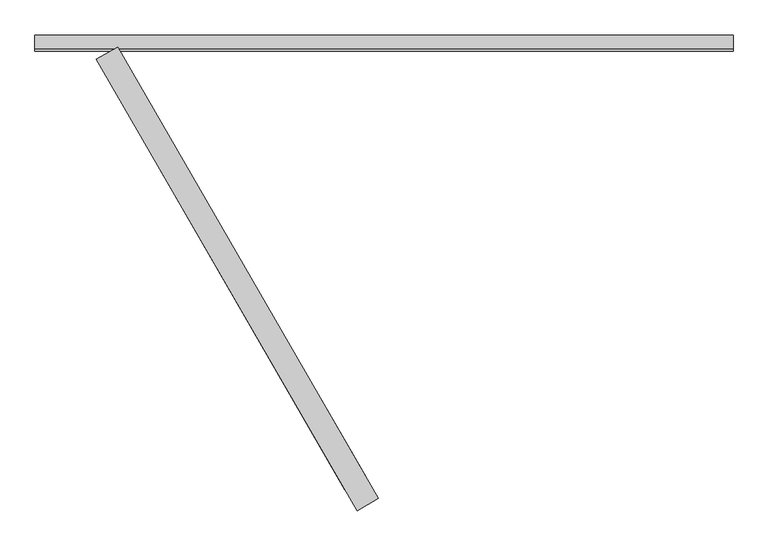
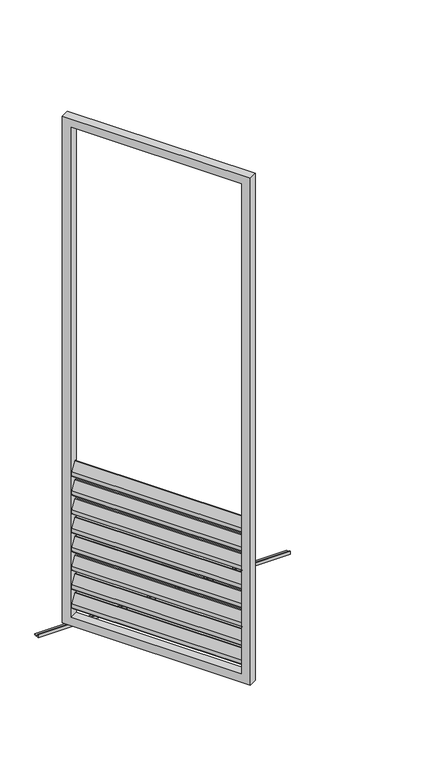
"""IFC4 building model written with IfcOpenShell, lengths in millimetres: proxy geometry, Renson_Amani_Loggia_Paro_Aluminium_Folding : Renson_Amani_Loggia_Paro_Aluminium_Folding."""

import ifcopenshell
import ifcopenshell.guid

model = None  # the IFC model being written
_history = None  # IfcOwnerHistory: only IFC2X3 demands one
_inside = {}  # id of a spatial element -> (the spatial element, [elements in it])
_under = {}  # id of a project, library or spatial element -> (it, [spatial elements below it])
_declared = {}  # id of a project -> (the project, [libraries it declares])
_typed = {}  # id of a type object -> (the type object, [elements of that type])
_made_of = {}  # id of a material, layer set ... -> (it, [elements and type objects made of it])


def new_model(schema):
    """Start an empty IFC model of exactly this schema.

    Asked for "IFC4X3", IfcOpenShell would pick the latest addendum, in which some entities
    have other attributes; the version numbers below select the first issue.
    IFC2X3 requires an IfcOwnerHistory on every rooted entity: one is made here for all.
    """
    global model, _history
    if schema == "IFC4X3":
        model = ifcopenshell.file(schema_version=(4, 3, 0, 0))
    else:
        model = ifcopenshell.file(schema=schema)
    _inside.clear()
    _under.clear()
    _declared.clear()
    _typed.clear()
    _made_of.clear()
    _history = None
    if model.schema == "IFC2X3":
        org = make("IfcOrganization", Name="unknown")
        user = make(
            "IfcPersonAndOrganization",
            ThePerson=make("IfcPerson", FamilyName="unknown"),
            TheOrganization=org,
        )
        app = make(
            "IfcApplication",
            ApplicationDeveloper=org,
            Version="unknown",
            ApplicationFullName="unknown",
            ApplicationIdentifier="unknown",
        )
        _history = make(
            "IfcOwnerHistory",
            OwningUser=user,
            OwningApplication=app,
            ChangeAction="ADDED",
            CreationDate=0,
        )
    return model


def make(cls, **values):
    """One entity of the class cls with the attributes given. An attribute that is None is left unset."""
    return model.create_entity(
        cls, **{name: value for name, value in values.items() if value is not None}
    )


def rooted(cls, **values):
    """An entity with a GlobalId (a new one), such as an element, a storey or a relation."""
    return make(cls, GlobalId=ifcopenshell.guid.new(), OwnerHistory=_history, **values)


def si_unit(unit_type, name, prefix=None):
    """IfcSIUnit, for example si_unit("LENGTHUNIT", "METRE", prefix="MILLI")."""
    return make("IfcSIUnit", UnitType=unit_type, Prefix=prefix, Name=name)


def assignment(units):
    """IfcUnitAssignment: the units of a project."""
    return None if units is None else make("IfcUnitAssignment", Units=units)


def point(xyz):
    """IfcCartesianPoint."""
    return None if xyz is None else make("IfcCartesianPoint", Coordinates=xyz)


def direction(xyz):
    """IfcDirection."""
    return None if xyz is None else make("IfcDirection", DirectionRatios=xyz)


def frame(location, z_axis=None, x_axis=None):
    """IfcAxis2Placement3D, a coordinate frame: its origin and axes. An axis left out is left unset."""
    return make(
        "IfcAxis2Placement3D",
        Location=point(location),
        Axis=direction(z_axis),
        RefDirection=direction(x_axis),
    )


def frame_2d(location, x_axis=None):
    """IfcAxis2Placement2D, a coordinate frame in the plane: its origin and x axis."""
    return make(
        "IfcAxis2Placement2D", Location=point(location), RefDirection=direction(x_axis)
    )


def origin():
    """The frame at (0, 0, 0) with its axes left unset."""
    return frame((0.0, 0.0, 0.0))


def place(relative_to, where):
    """IfcLocalPlacement: puts the frame where relative to a parent placement (None: the world)."""
    return make(
        "IfcLocalPlacement", PlacementRelTo=relative_to, RelativePlacement=where
    )


def context(
    kind, dimensions, precision=None, world=None, true_north=None, identifier=None
):
    """IfcGeometricRepresentationContext, for example the 3D "Model" context."""
    return make(
        "IfcGeometricRepresentationContext",
        ContextIdentifier=identifier,
        ContextType=kind,
        CoordinateSpaceDimension=dimensions,
        Precision=precision,
        WorldCoordinateSystem=world,
        TrueNorth=true_north,
    )


def project(units=None, contexts=None):
    """IfcProject with its units and contexts."""
    return rooted(
        "IfcProject",
        Name="project",
        RepresentationContexts=contexts,
        UnitsInContext=assignment(units),
    )


def spatial(cls, under=None, at=None, **own):
    """A site, building, storey or space (cls), placed at a placement, below another one or the project."""
    s = rooted(cls, ObjectPlacement=at, **own)
    if under is not None:
        _under.setdefault(under.id(), (under, []))[1].append(s)
    return s


def polyline(points):
    """IfcPolyline through the points."""
    return make("IfcPolyline", Points=[point(p) for p in points])


def circle_curve(where, radius):
    """IfcCircle in the frame where."""
    return make("IfcCircle", Position=where, Radius=radius)


def trimmed(basis, trim1, trim2, sense, master):
    """IfcTrimmedCurve: the piece of a basis curve between two trims."""
    return make(
        "IfcTrimmedCurve",
        BasisCurve=basis,
        Trim1=trim1,
        Trim2=trim2,
        SenseAgreement=sense,
        MasterRepresentation=master,
    )


def segment(curve, same_sense, transition):
    """IfcCompositeCurveSegment."""
    return make(
        "IfcCompositeCurveSegment",
        Transition=transition,
        SameSense=same_sense,
        ParentCurve=curve,
    )


def composite_curve(segments, self_intersect=None):
    """IfcCompositeCurve: segments joined end to end."""
    return make("IfcCompositeCurve", Segments=segments, SelfIntersect=self_intersect)


def outline(outer, holes=None, kind="AREA"):
    """IfcArbitraryClosedProfileDef: a profile drawn as a closed curve; with holes, ...WithVoids."""
    if holes is None:
        return make("IfcArbitraryClosedProfileDef", ProfileType=kind, OuterCurve=outer)
    return make(
        "IfcArbitraryProfileDefWithVoids",
        ProfileType=kind,
        OuterCurve=outer,
        InnerCurves=holes,
    )


def extrude(swept, where, along, depth):
    """IfcExtrudedAreaSolid: the profile swept, set in the frame where, extruded along a direction by depth."""
    return make(
        "IfcExtrudedAreaSolid",
        SweptArea=swept,
        Position=where,
        ExtrudedDirection=direction(along),
        Depth=depth,
    )


def shape(context_of_items, identifier, shape_type, items):
    """IfcShapeRepresentation: the items that make up one representation, for example the "Body"."""
    return make(
        "IfcShapeRepresentation",
        ContextOfItems=context_of_items,
        RepresentationIdentifier=identifier,
        RepresentationType=shape_type,
        Items=items,
    )


def source(mapping_origin, context_of_items, identifier, shape_type, items):
    """IfcRepresentationMap: a shape defined once, which mapped items show again and again."""
    return make(
        "IfcRepresentationMap",
        MappingOrigin=mapping_origin,
        MappedRepresentation=shape(context_of_items, identifier, shape_type, items),
    )


def transform(
    local_origin,
    x_axis=None,
    y_axis=None,
    z_axis=None,
    scale=None,
    scale2=None,
    scale3=None,
    uniform=True,
):
    """IfcCartesianTransformationOperator3D, or its non-uniform kind. x_axis, y_axis, z_axis: its Axis1, 2, 3."""
    if uniform:
        return make(
            "IfcCartesianTransformationOperator3D",
            Axis1=direction(x_axis),
            Axis2=direction(y_axis),
            LocalOrigin=point(local_origin),
            Scale=scale,
            Axis3=direction(z_axis),
        )
    return make(
        "IfcCartesianTransformationOperator3DnonUniform",
        Axis1=direction(x_axis),
        Axis2=direction(y_axis),
        LocalOrigin=point(local_origin),
        Scale=scale,
        Axis3=direction(z_axis),
        Scale2=scale2,
        Scale3=scale3,
    )


def mapped(mapping_source, mapping_target):
    """IfcMappedItem: shows the shape of a source again, moved by a transform."""
    return make(
        "IfcMappedItem", MappingSource=mapping_source, MappingTarget=mapping_target
    )


def made_of(thing, what):
    """Note that an element or type object is made of a material, layer set ...; save() writes the relation."""
    if what is not None:
        _made_of.setdefault(what.id(), (what, []))[1].append(thing)
    return thing


def element(
    cls,
    number,
    at=None,
    inside=None,
    cuts=None,
    type_object=None,
    material=None,
    context=None,
    identifier="Body",
    shape_type=None,
    held_by="IfcProductDefinitionShape",
    body=None,
    shapes=None,
    **own,
):
    """One element of the class cls, such as IfcWall. Its Tag is "e" and its number.

    at: its placement. inside: the storey or other place that contains it. cuts: it is an
    opening in that element (IfcRelVoidsElement). A single representation is given by context,
    identifier, shape_type and body (its items); several are given by shapes. held_by: the class
    of the entity that holds the representations. save() writes the other relations.
    """
    e = rooted(cls, Tag="e%d" % number, ObjectPlacement=at, **own)
    if body is not None:
        shapes = [shape(context, identifier, shape_type, body)]
    if shapes is not None:
        e.Representation = make(held_by, Representations=shapes)
    if inside is not None:
        _inside.setdefault(inside.id(), (inside, []))[1].append(e)
    if cuts is not None:
        rooted(
            "IfcRelVoidsElement", RelatingBuildingElement=cuts, RelatedOpeningElement=e
        )
    if type_object is not None:
        _typed.setdefault(type_object.id(), (type_object, []))[1].append(e)
    return made_of(e, material)


def aggregate(whole, parts):
    """IfcRelAggregates: a whole, such as a stair, and the parts it consists of."""
    return rooted("IfcRelAggregates", RelatingObject=whole, RelatedObjects=parts)


def save(model, path):
    """Write the relations noted so far, then the file.

    IfcRelAggregates (storeys below a building ...), IfcRelContainedInSpatialStructure (elements
    in a storey), IfcRelDefinesByType, IfcRelAssociatesMaterial and IfcRelDeclares: one each for
    every whole, place, type object, material and project.
    """
    for whole, parts in _under.values():
        aggregate(whole, parts)
    for where, things in _inside.values():
        rooted(
            "IfcRelContainedInSpatialStructure",
            RelatedElements=things,
            RelatingStructure=where,
        )
    for kind, things in _typed.values():
        rooted("IfcRelDefinesByType", RelatedObjects=things, RelatingType=kind)
    for what, things in _made_of.values():
        rooted("IfcRelAssociatesMaterial", RelatedObjects=things, RelatingMaterial=what)
    for by, libraries in _declared.values():
        rooted("IfcRelDeclares", RelatingContext=by, RelatedDefinitions=libraries)
    model.write(path)


def generic_models_4d2810b8(model_context):
    return source(origin(), model_context, "Body", "SweptSolid", [
        extrude(outline(composite_curve([segment(polyline([(-44.0658831, 0.0), (0.8886405, 0.0), (17.0325667, -10.4839883)]), True, "CONTINUOUS"), segment(trimmed(circle_curve(frame_2d((15.3986496, -13.0)), 3.0), [point((17.0325667, -10.4839883))], [point((15.3986496, -16.0))], False, "CARTESIAN"), True, "CONTINUOUS"), segment(polyline([(15.3986496, -16.0), (-28.6672334, -16.0)]), True, "CONTINUOUS"), segment(trimmed(circle_curve(frame_2d((-28.6672334, -13.0)), 3.0), [point((-28.6672334, -16.0))], [point((-30.3011505, -15.5160117))], False, "CARTESIAN"), True, "CONTINUOUS"), segment(polyline([(-30.3011505, -15.5160117), (-45.6998002, -5.5160117)]), True, "CONTINUOUS"), segment(trimmed(circle_curve(frame_2d((-44.0658831, -3.0)), 3.0), [point((-45.6998002, -5.5160117))], [point((-44.0658831, 0.0))], False, "CARTESIAN"), True, "CONTINUOUS")], self_intersect=False)), frame((410.3274249, 37.7168064, 777.3359298), z_axis=(-0.5000000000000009, 0.8660254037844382, 0.0), x_axis=(-0.47167124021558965, -0.27231951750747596, -0.8386705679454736)), (0.0, 0.0, 1.0), 770.0),
        extrude(outline(composite_curve([segment(polyline([(-44.0658831, 0.0), (0.8886405, 0.0), (17.0325667, -10.4839883)]), True, "CONTINUOUS"), segment(trimmed(circle_curve(frame_2d((15.3986496, -13.0)), 3.0), [point((17.0325667, -10.4839883))], [point((15.3986496, -16.0))], False, "CARTESIAN"), True, "CONTINUOUS"), segment(polyline([(15.3986496, -16.0), (-28.6672334, -16.0)]), True, "CONTINUOUS"), segment(trimmed(circle_curve(frame_2d((-28.6672334, -13.0)), 3.0), [point((-28.6672334, -16.0))], [point((-30.3011505, -15.5160117))], False, "CARTESIAN"), True, "CONTINUOUS"), segment(polyline([(-30.3011505, -15.5160117), (-45.6998002, -5.5160117)]), True, "CONTINUOUS"), segment(trimmed(circle_curve(frame_2d((-44.0658831, -3.0)), 3.0), [point((-45.6998002, -5.5160117))], [point((-44.0658831, 0.0))], False, "CARTESIAN"), True, "CONTINUOUS")], self_intersect=False)), frame((410.3274249, 37.7168064, 687.3359298), z_axis=(-0.5000000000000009, 0.8660254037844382, 0.0), x_axis=(-0.47167124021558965, -0.27231951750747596, -0.8386705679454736)), (0.0, 0.0, 1.0), 770.0),
        extrude(outline(composite_curve([segment(polyline([(-44.0658831, 0.0), (0.8886405, 0.0), (17.0325667, -10.4839883)]), True, "CONTINUOUS"), segment(trimmed(circle_curve(frame_2d((15.3986496, -13.0)), 3.0), [point((17.0325667, -10.4839883))], [point((15.3986496, -16.0))], False, "CARTESIAN"), True, "CONTINUOUS"), segment(polyline([(15.3986496, -16.0), (-28.6672334, -16.0)]), True, "CONTINUOUS"), segment(trimmed(circle_curve(frame_2d((-28.6672334, -13.0)), 3.0), [point((-28.6672334, -16.0))], [point((-30.3011505, -15.5160117))], False, "CARTESIAN"), True, "CONTINUOUS"), segment(polyline([(-30.3011505, -15.5160117), (-45.6998002, -5.5160117)]), True, "CONTINUOUS"), segment(trimmed(circle_curve(frame_2d((-44.0658831, -3.0)), 3.0), [point((-45.6998002, -5.5160117))], [point((-44.0658831, 0.0))], False, "CARTESIAN"), True, "CONTINUOUS")], self_intersect=False)), frame((410.3274249, 37.7168064, 597.3359298), z_axis=(-0.5000000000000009, 0.8660254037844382, 0.0), x_axis=(-0.47167124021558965, -0.27231951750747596, -0.8386705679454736)), (0.0, 0.0, 1.0), 770.0),
        extrude(outline(composite_curve([segment(polyline([(-44.0658831, 0.0), (0.8886405, 0.0), (17.0325667, -10.4839883)]), True, "CONTINUOUS"), segment(trimmed(circle_curve(frame_2d((15.3986496, -13.0)), 3.0), [point((17.0325667, -10.4839883))], [point((15.3986496, -16.0))], False, "CARTESIAN"), True, "CONTINUOUS"), segment(polyline([(15.3986496, -16.0), (-28.6672334, -16.0)]), True, "CONTINUOUS"), segment(trimmed(circle_curve(frame_2d((-28.6672334, -13.0)), 3.0), [point((-28.6672334, -16.0))], [point((-30.3011505, -15.5160117))], False, "CARTESIAN"), True, "CONTINUOUS"), segment(polyline([(-30.3011505, -15.5160117), (-45.6998002, -5.5160117)]), True, "CONTINUOUS"), segment(trimmed(circle_curve(frame_2d((-44.0658831, -3.0)), 3.0), [point((-45.6998002, -5.5160117))], [point((-44.0658831, 0.0))], False, "CARTESIAN"), True, "CONTINUOUS")], self_intersect=False)), frame((410.3274249, 37.7168064, 507.3359298), z_axis=(-0.5000000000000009, 0.8660254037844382, 0.0), x_axis=(-0.47167124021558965, -0.27231951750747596, -0.8386705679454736)), (0.0, 0.0, 1.0), 770.0),
        extrude(outline(composite_curve([segment(polyline([(-44.0658831, 0.0), (0.8886405, 0.0), (17.0325667, -10.4839883)]), True, "CONTINUOUS"), segment(trimmed(circle_curve(frame_2d((15.3986496, -13.0)), 3.0), [point((17.0325667, -10.4839883))], [point((15.3986496, -16.0))], False, "CARTESIAN"), True, "CONTINUOUS"), segment(polyline([(15.3986496, -16.0), (-28.6672334, -16.0)]), True, "CONTINUOUS"), segment(trimmed(circle_curve(frame_2d((-28.6672334, -13.0)), 3.0), [point((-28.6672334, -16.0))], [point((-30.3011505, -15.5160117))], False, "CARTESIAN"), True, "CONTINUOUS"), segment(polyline([(-30.3011505, -15.5160117), (-45.6998002, -5.5160117)]), True, "CONTINUOUS"), segment(trimmed(circle_curve(frame_2d((-44.0658831, -3.0)), 3.0), [point((-45.6998002, -5.5160117))], [point((-44.0658831, 0.0))], False, "CARTESIAN"), True, "CONTINUOUS")], self_intersect=False)), frame((410.3274249, 37.7168064, 417.3359298), z_axis=(-0.5000000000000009, 0.8660254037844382, 0.0), x_axis=(-0.47167124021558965, -0.27231951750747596, -0.8386705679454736)), (0.0, 0.0, 1.0), 770.0),
        extrude(outline(composite_curve([segment(polyline([(-44.0658831, 0.0), (0.8886405, 0.0), (17.0325667, -10.4839883)]), True, "CONTINUOUS"), segment(trimmed(circle_curve(frame_2d((15.3986496, -13.0)), 3.0), [point((17.0325667, -10.4839883))], [point((15.3986496, -16.0))], False, "CARTESIAN"), True, "CONTINUOUS"), segment(polyline([(15.3986496, -16.0), (-28.6672334, -16.0)]), True, "CONTINUOUS"), segment(trimmed(circle_curve(frame_2d((-28.6672334, -13.0)), 3.0), [point((-28.6672334, -16.0))], [point((-30.3011505, -15.5160117))], False, "CARTESIAN"), True, "CONTINUOUS"), segment(polyline([(-30.3011505, -15.5160117), (-45.6998002, -5.5160117)]), True, "CONTINUOUS"), segment(trimmed(circle_curve(frame_2d((-44.0658831, -3.0)), 3.0), [point((-45.6998002, -5.5160117))], [point((-44.0658831, 0.0))], False, "CARTESIAN"), True, "CONTINUOUS")], self_intersect=False)), frame((410.3274249, 37.7168064, 327.3359298), z_axis=(-0.5000000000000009, 0.8660254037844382, 0.0), x_axis=(-0.47167124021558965, -0.27231951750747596, -0.8386705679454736)), (0.0, 0.0, 1.0), 770.0),
        extrude(outline(composite_curve([segment(polyline([(-44.0658831, 0.0), (0.8886405, 0.0), (17.0325667, -10.4839883)]), True, "CONTINUOUS"), segment(trimmed(circle_curve(frame_2d((15.3986496, -13.0)), 3.0), [point((17.0325667, -10.4839883))], [point((15.3986496, -16.0))], False, "CARTESIAN"), True, "CONTINUOUS"), segment(polyline([(15.3986496, -16.0), (-28.6672334, -16.0)]), True, "CONTINUOUS"), segment(trimmed(circle_curve(frame_2d((-28.6672334, -13.0)), 3.0), [point((-28.6672334, -16.0))], [point((-30.3011505, -15.5160117))], False, "CARTESIAN"), True, "CONTINUOUS"), segment(polyline([(-30.3011505, -15.5160117), (-45.6998002, -5.5160117)]), True, "CONTINUOUS"), segment(trimmed(circle_curve(frame_2d((-44.0658831, -3.0)), 3.0), [point((-45.6998002, -5.5160117))], [point((-44.0658831, 0.0))], False, "CARTESIAN"), True, "CONTINUOUS")], self_intersect=False)), frame((410.3274249, 37.7168064, 237.3359298), z_axis=(-0.5000000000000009, 0.8660254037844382, 0.0), x_axis=(-0.47167124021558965, -0.27231951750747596, -0.8386705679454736)), (0.0, 0.0, 1.0), 770.0),
        extrude(outline(composite_curve([segment(polyline([(-44.0658831, 0.0), (0.8886405, 0.0), (17.0325667, -10.4839883)]), True, "CONTINUOUS"), segment(trimmed(circle_curve(frame_2d((15.3986496, -13.0)), 3.0), [point((17.0325667, -10.4839883))], [point((15.3986496, -16.0))], False, "CARTESIAN"), True, "CONTINUOUS"), segment(polyline([(15.3986496, -16.0), (-28.6672334, -16.0)]), True, "CONTINUOUS"), segment(trimmed(circle_curve(frame_2d((-28.6672334, -13.0)), 3.0), [point((-28.6672334, -16.0))], [point((-30.3011505, -15.5160117))], False, "CARTESIAN"), True, "CONTINUOUS"), segment(polyline([(-30.3011505, -15.5160117), (-45.6998002, -5.5160117)]), True, "CONTINUOUS"), segment(trimmed(circle_curve(frame_2d((-44.0658831, -3.0)), 3.0), [point((-45.6998002, -5.5160117))], [point((-44.0658831, 0.0))], False, "CARTESIAN"), True, "CONTINUOUS")], self_intersect=False)), frame((410.3274249, 37.7168064, 147.3359298), z_axis=(-0.5000000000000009, 0.8660254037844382, 0.0), x_axis=(-0.47167124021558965, -0.27231951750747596, -0.8386705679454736)), (0.0, 0.0, 1.0), 770.0),
        extrude(outline(polyline([(2380.0, -40.0), (-40.0, -40.0), (-40.0, 810.0), (2380.0, 810.0), (2380.0, -40.0)]), holes=[polyline([(2340.0, 770.0), (0.0, 770.0), (0.0, 0.0), (2340.0, 0.0), (2340.0, 770.0)])]), frame((20.0, 701.4805771, 85.0), z_axis=(0.8660254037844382, 0.5000000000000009, 0.0), x_axis=(0.0, 0.0, 1.0)), (0.0, 0.0, 1.0), 40.0),
        extrude(outline(polyline([(750.1215932, 15.0), (753.1215932, 15.0), (753.1215932, 3.0), (776.1215932, 3.0), (776.1215932, 0.0), (750.1215932, 0.0), (750.1215932, 15.0)])), frame((-100.0, 0.0, 0.0), z_axis=(1.0, 0.0, 0.0), x_axis=(0.0, 1.0, 0.0)), (0.0, 0.0, 1.0), 1137.9284338),
    ])


if __name__ == "__main__":
    model = new_model("IFC4")
    model_context = context("Model", 3, world=origin())
    ifc_project = project(units=[si_unit("LENGTHUNIT", "METRE", prefix="MILLI")], contexts=[model_context])
    site = spatial("IfcSite", under=ifc_project)
    building = spatial("IfcBuilding", under=site)
    placement = place(None, origin())
    generic_models_shape = generic_models_4d2810b8(model_context)
    element("IfcBuildingElementProxy", 1, Name="Renson_Amani_Loggia_Paro_Aluminium_Folding : Renson_Amani_Loggia_Paro_Aluminium_Folding", ObjectType="Renson_Amani_Loggia_Paro_Aluminium_Folding : Renson_Amani_Loggia_Paro_Aluminium_Folding", at=placement, inside=building, context=model_context, shape_type="MappedRepresentation", body=[
        mapped(generic_models_shape, transform((0.0, 0.0, 0.0), x_axis=(1.0, 0.0, 0.0), y_axis=(0.0, 1.0, 0.0), z_axis=(0.0, 0.0, 1.0))),
    ])
    save(model, "model.ifc")
